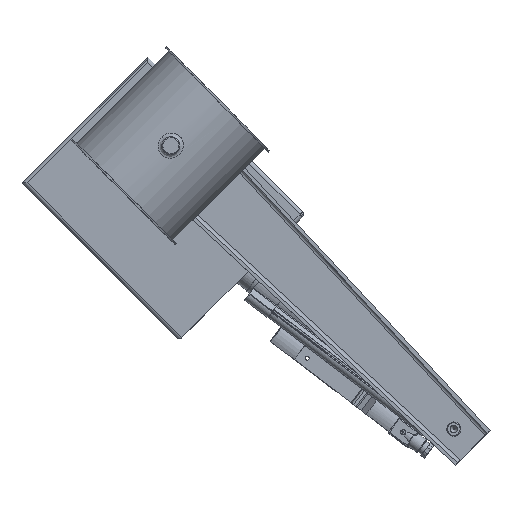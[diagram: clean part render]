
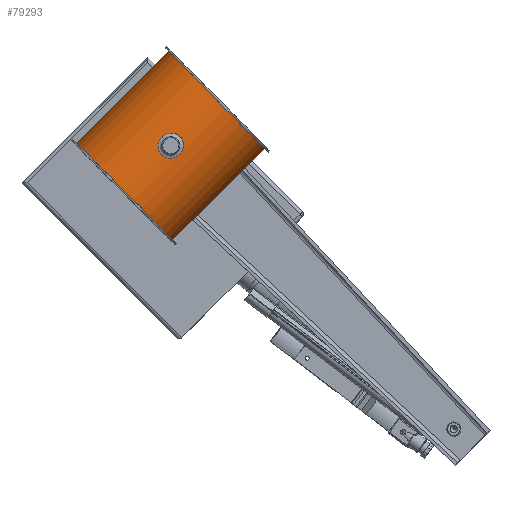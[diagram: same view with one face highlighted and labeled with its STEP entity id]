
A CAD part, top view. The second image highlights one B-rep face of the part: STEP entity #79293.
In plain terms, the highlighted cylindrical face has radius 76.5 mm (diameter 153 mm), a full revolution.
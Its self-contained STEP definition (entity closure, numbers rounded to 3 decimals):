
#78985=CARTESIAN_POINT('',(-75.015,15.0,75.0));
#78986=VERTEX_POINT('',#78985);
#78987=CARTESIAN_POINT('',(-75.015,15.0,75.0));
#78988=CARTESIAN_POINT('',(-75.015,15.0,75.944));
#78989=CARTESIAN_POINT('',(-75.033,14.909,76.92));
#78990=CARTESIAN_POINT('',(-75.108,14.529,78.86));
#78991=CARTESIAN_POINT('',(-75.164,14.238,79.824));
#78992=CARTESIAN_POINT('',(-75.376,13.089,82.594));
#78993=CARTESIAN_POINT('',(-75.575,11.936,84.278));
#78994=CARTESIAN_POINT('',(-75.947,9.278,86.936));
#78995=CARTESIAN_POINT('',(-76.145,7.594,88.089));
#78996=CARTESIAN_POINT('',(-76.353,4.823,89.238));
#78997=CARTESIAN_POINT('',(-76.409,3.86,89.529));
#78998=CARTESIAN_POINT('',(-76.482,1.92,89.909));
#78999=CARTESIAN_POINT('',(-76.5,0.944,90.0));
#79000=CARTESIAN_POINT('',(-76.5,-0.944,90.0));
#79001=CARTESIAN_POINT('',(-76.482,-1.92,89.909));
#79002=CARTESIAN_POINT('',(-76.409,-3.86,89.529));
#79003=CARTESIAN_POINT('',(-76.353,-4.823,89.238));
#79004=CARTESIAN_POINT('',(-76.145,-7.594,88.089));
#79005=CARTESIAN_POINT('',(-75.947,-9.278,86.936));
#79006=CARTESIAN_POINT('',(-75.575,-11.936,84.278));
#79007=CARTESIAN_POINT('',(-75.376,-13.089,82.594));
#79008=CARTESIAN_POINT('',(-75.164,-14.238,79.824));
#79009=CARTESIAN_POINT('',(-75.108,-14.529,78.86));
#79010=CARTESIAN_POINT('',(-75.033,-14.909,76.92));
#79011=CARTESIAN_POINT('',(-75.015,-15.0,75.944));
#79012=CARTESIAN_POINT('',(-75.015,-15.0,74.056));
#79013=CARTESIAN_POINT('',(-75.033,-14.909,73.08));
#79014=CARTESIAN_POINT('',(-75.108,-14.529,71.14));
#79015=CARTESIAN_POINT('',(-75.164,-14.238,70.176));
#79016=CARTESIAN_POINT('',(-75.376,-13.089,67.406));
#79017=CARTESIAN_POINT('',(-75.575,-11.936,65.722));
#79018=CARTESIAN_POINT('',(-75.947,-9.278,63.064));
#79019=CARTESIAN_POINT('',(-76.145,-7.594,61.911));
#79020=CARTESIAN_POINT('',(-76.353,-4.823,60.762));
#79021=CARTESIAN_POINT('',(-76.409,-3.86,60.471));
#79022=CARTESIAN_POINT('',(-76.482,-1.92,60.091));
#79023=CARTESIAN_POINT('',(-76.5,-0.944,60.0));
#79024=CARTESIAN_POINT('',(-76.5,0.944,60.0));
#79025=CARTESIAN_POINT('',(-76.482,1.92,60.091));
#79026=CARTESIAN_POINT('',(-76.409,3.86,60.471));
#79027=CARTESIAN_POINT('',(-76.353,4.823,60.762));
#79028=CARTESIAN_POINT('',(-76.145,7.594,61.911));
#79029=CARTESIAN_POINT('',(-75.947,9.278,63.064));
#79030=CARTESIAN_POINT('',(-75.575,11.936,65.722));
#79031=CARTESIAN_POINT('',(-75.376,13.089,67.406));
#79032=CARTESIAN_POINT('',(-75.164,14.238,70.176));
#79033=CARTESIAN_POINT('',(-75.108,14.529,71.14));
#79034=CARTESIAN_POINT('',(-75.033,14.909,73.08));
#79035=CARTESIAN_POINT('',(-75.015,15.0,74.056));
#79036=CARTESIAN_POINT('',(-75.015,15.0,75.));
#79037=B_SPLINE_CURVE_WITH_KNOTS('',3,(#78987,#78988,#78989,#78990,#78991,#78992,#78993,#78994,#78995,#78996,#78997,#78998,#78999,#79000,#79001,#79002,#79003,#79004,#79005,#79006,#79007,#79008,#79009,#79010,#79011,#79012,#79013,#79014,#79015,#79016,#79017,#79018,#79019,#79020,#79021,#79022,#79023,#79024,#79025,#79026,#79027,#79028,#79029,#79030,#79031,#79032,#79033,#79034,#79035,#79036),.UNSPECIFIED.,.T.,.U.,(4,2,2,2,2,2,2,2,2,2,2,2,2,2,2,2,2,2,2,2,2,2,2,2,4),(0.0,0.283,0.567,1.133,1.7,1.983,2.266,2.55,2.833,3.4,3.966,4.25,4.533,4.816,5.1,5.666,6.233,6.516,6.799,7.083,7.366,7.933,8.499,8.782,9.066),.UNSPECIFIED.);
#79038=EDGE_CURVE('',#78986,#78986,#79037,.T.);
#79220=CARTESIAN_POINT('',(75.264,13.694,75.0));
#79221=VERTEX_POINT('',#79220);
#79231=CARTESIAN_POINT('',(75.264,13.694,75.));
#79232=CARTESIAN_POINT('',(75.264,13.694,75.001));
#79233=CARTESIAN_POINT('',(75.264,13.694,75.002));
#79234=CARTESIAN_POINT('',(75.264,13.694,75.003));
#79235=CARTESIAN_POINT('',(75.264,13.694,77.164));
#79236=CARTESIAN_POINT('',(75.441,12.767,81.483));
#79237=CARTESIAN_POINT('',(76.042,8.845,86.71));
#79238=CARTESIAN_POINT('',(76.437,4.132,89.123));
#79239=CARTESIAN_POINT('',(76.52,0.017,89.621));
#79240=CARTESIAN_POINT('',(76.438,-4.091,89.138));
#79241=CARTESIAN_POINT('',(76.047,-8.814,86.729));
#79242=CARTESIAN_POINT('',(75.373,-13.192,80.957));
#79243=CARTESIAN_POINT('',(75.174,-14.166,74.216));
#79244=CARTESIAN_POINT('',(75.477,-12.521,68.615));
#79245=CARTESIAN_POINT('',(75.895,-9.811,64.392));
#79246=CARTESIAN_POINT('',(76.273,-6.342,61.885));
#79247=CARTESIAN_POINT('',(76.517,-1.764,60.384));
#79248=CARTESIAN_POINT('',(76.52,3.155,60.38));
#79249=CARTESIAN_POINT('',(76.042,8.83,63.277));
#79250=CARTESIAN_POINT('',(75.545,12.1,67.622));
#79251=CARTESIAN_POINT('',(75.308,13.46,71.733));
#79252=CARTESIAN_POINT('',(75.264,13.694,73.92));
#79253=CARTESIAN_POINT('',(75.264,13.694,75.));
#79254=B_SPLINE_CURVE_WITH_KNOTS('',3,(#79231,#79232,#79233,#79234,#79235,#79236,#79237,#79238,#79239,#79240,#79241,#79242,#79243,#79244,#79245,#79246,#79247,#79248,#79249,#79250,#79251,#79252,#79253),.UNSPECIFIED.,.T.,.U.,(4,3,1,1,1,1,1,1,1,1,1,1,1,1,1,1,1,1,4),(-6.035,-6.034,-5.603,-5.172,-4.741,-4.526,-4.31,-3.879,-3.448,-2.874,-2.586,-2.299,-1.868,-1.724,-1.293,-0.862,-0.431,-0.216,0.),.UNSPECIFIED.);
#79255=EDGE_CURVE('',#79221,#79221,#79254,.T.);
#79260=CARTESIAN_POINT('',(0.0,0.0,0.0));
#79261=DIRECTION('',(0.0,0.0,1.0));
#79262=DIRECTION('',(-1.0,0.0,0.0));
#79263=AXIS2_PLACEMENT_3D('',#79260,#79261,#79262);
#79264=CYLINDRICAL_SURFACE('',#79263,76.5);
#79265=CARTESIAN_POINT('',(76.5,0.,148.0));
#79266=VERTEX_POINT('',#79265);
#79267=CARTESIAN_POINT('',(0.0,0.0,148.0));
#79268=DIRECTION('',(0.0,0.0,-1.0));
#79269=DIRECTION('',(-1.0,0.0,0.0));
#79270=AXIS2_PLACEMENT_3D('',#79267,#79268,#79269);
#79271=CIRCLE('',#79270,76.5);
#79272=EDGE_CURVE('',#79266,#79266,#79271,.T.);
#79273=ORIENTED_EDGE('',*,*,#79272,.T.);
#79274=EDGE_LOOP('',(#79273));
#79275=FACE_OUTER_BOUND('',#79274,.T.);
#79276=ORIENTED_EDGE('',*,*,#79038,.T.);
#79277=EDGE_LOOP('',(#79276));
#79278=FACE_BOUND('',#79277,.T.);
#79279=CARTESIAN_POINT('',(-76.5,0.,2.0));
#79280=VERTEX_POINT('',#79279);
#79281=CARTESIAN_POINT('',(0.0,0.0,2.0));
#79282=DIRECTION('',(0.0,0.0,1.0));
#79283=DIRECTION('',(-1.0,0.0,0.0));
#79284=AXIS2_PLACEMENT_3D('',#79281,#79282,#79283);
#79285=CIRCLE('',#79284,76.5);
#79286=EDGE_CURVE('',#79280,#79280,#79285,.T.);
#79287=ORIENTED_EDGE('',*,*,#79286,.T.);
#79288=EDGE_LOOP('',(#79287));
#79289=FACE_BOUND('',#79288,.T.);
#79290=ORIENTED_EDGE('',*,*,#79255,.F.);
#79291=EDGE_LOOP('',(#79290));
#79292=FACE_BOUND('',#79291,.T.);
#79293=ADVANCED_FACE('',(#79275,#79278,#79289,#79292),#79264,.T.);
